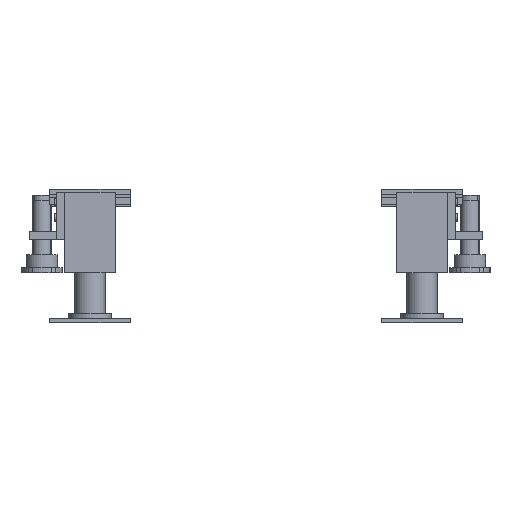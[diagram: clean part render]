
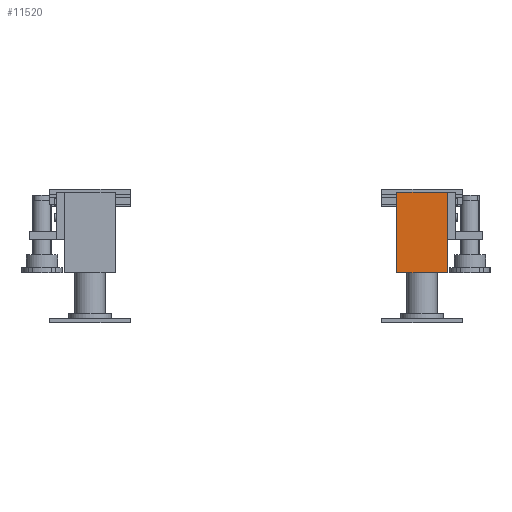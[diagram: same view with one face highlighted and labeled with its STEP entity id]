
A CAD part, left-side view. The second image highlights one B-rep face of the part: STEP entity #11520.
In plain terms, the highlighted planar face has unit normal (-1, 0, 0).
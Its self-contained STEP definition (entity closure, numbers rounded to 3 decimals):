
#11520 = ADVANCED_FACE('',(#11521),#11535,.F.);
#11521 = FACE_BOUND('',#11522,.F.);
#11522 = EDGE_LOOP('',(#11523,#11558,#11586,#11614));
#11523 = ORIENTED_EDGE('',*,*,#11524,.F.);
#11524 = EDGE_CURVE('',#11525,#11527,#11529,.T.);
#11525 = VERTEX_POINT('',#11526);
#11526 = CARTESIAN_POINT('',(3025.,-380.,950.));
#11527 = VERTEX_POINT('',#11528);
#11528 = CARTESIAN_POINT('',(3025.,-380.,1110.));
#11529 = SURFACE_CURVE('',#11530,(#11534,#11546),.PCURVE_S1.);
#11530 = LINE('',#11531,#11532);
#11531 = CARTESIAN_POINT('',(3025.,-380.,950.));
#11532 = VECTOR('',#11533,1.);
#11533 = DIRECTION('',(0.,0.,1.));
#11534 = PCURVE('',#11535,#11540);
#11535 = PLANE('',#11536);
#11536 = AXIS2_PLACEMENT_3D('',#11537,#11538,#11539);
#11537 = CARTESIAN_POINT('',(3025.,-380.,950.));
#11538 = DIRECTION('',(1.,0.,-0.));
#11539 = DIRECTION('',(0.,0.,1.));
#11540 = DEFINITIONAL_REPRESENTATION('',(#11541),#11545);
#11541 = LINE('',#11542,#11543);
#11542 = CARTESIAN_POINT('',(0.,0.));
#11543 = VECTOR('',#11544,1.);
#11544 = DIRECTION('',(1.,0.));
#11545 = ( GEOMETRIC_REPRESENTATION_CONTEXT(2) 
PARAMETRIC_REPRESENTATION_CONTEXT() REPRESENTATION_CONTEXT('2D SPACE',''
  ) );
#11546 = PCURVE('',#11547,#11552);
#11547 = PLANE('',#11548);
#11548 = AXIS2_PLACEMENT_3D('',#11549,#11550,#11551);
#11549 = CARTESIAN_POINT('',(3025.,-380.,950.));
#11550 = DIRECTION('',(-0.,1.,0.));
#11551 = DIRECTION('',(0.,0.,1.));
#11552 = DEFINITIONAL_REPRESENTATION('',(#11553),#11557);
#11553 = LINE('',#11554,#11555);
#11554 = CARTESIAN_POINT('',(0.,0.));
#11555 = VECTOR('',#11556,1.);
#11556 = DIRECTION('',(1.,0.));
#11557 = ( GEOMETRIC_REPRESENTATION_CONTEXT(2) 
PARAMETRIC_REPRESENTATION_CONTEXT() REPRESENTATION_CONTEXT('2D SPACE',''
  ) );
#11558 = ORIENTED_EDGE('',*,*,#11559,.T.);
#11559 = EDGE_CURVE('',#11525,#11560,#11562,.T.);
#11560 = VERTEX_POINT('',#11561);
#11561 = CARTESIAN_POINT('',(3025.,-280.,950.));
#11562 = SURFACE_CURVE('',#11563,(#11567,#11574),.PCURVE_S1.);
#11563 = LINE('',#11564,#11565);
#11564 = CARTESIAN_POINT('',(3025.,-380.,950.));
#11565 = VECTOR('',#11566,1.);
#11566 = DIRECTION('',(-0.,1.,0.));
#11567 = PCURVE('',#11535,#11568);
#11568 = DEFINITIONAL_REPRESENTATION('',(#11569),#11573);
#11569 = LINE('',#11570,#11571);
#11570 = CARTESIAN_POINT('',(0.,0.));
#11571 = VECTOR('',#11572,1.);
#11572 = DIRECTION('',(0.,-1.));
#11573 = ( GEOMETRIC_REPRESENTATION_CONTEXT(2) 
PARAMETRIC_REPRESENTATION_CONTEXT() REPRESENTATION_CONTEXT('2D SPACE',''
  ) );
#11574 = PCURVE('',#11575,#11580);
#11575 = PLANE('',#11576);
#11576 = AXIS2_PLACEMENT_3D('',#11577,#11578,#11579);
#11577 = CARTESIAN_POINT('',(3025.,-380.,950.));
#11578 = DIRECTION('',(0.,0.,1.));
#11579 = DIRECTION('',(1.,0.,-0.));
#11580 = DEFINITIONAL_REPRESENTATION('',(#11581),#11585);
#11581 = LINE('',#11582,#11583);
#11582 = CARTESIAN_POINT('',(0.,0.));
#11583 = VECTOR('',#11584,1.);
#11584 = DIRECTION('',(0.,1.));
#11585 = ( GEOMETRIC_REPRESENTATION_CONTEXT(2) 
PARAMETRIC_REPRESENTATION_CONTEXT() REPRESENTATION_CONTEXT('2D SPACE',''
  ) );
#11586 = ORIENTED_EDGE('',*,*,#11587,.T.);
#11587 = EDGE_CURVE('',#11560,#11588,#11590,.T.);
#11588 = VERTEX_POINT('',#11589);
#11589 = CARTESIAN_POINT('',(3025.,-280.,1110.));
#11590 = SURFACE_CURVE('',#11591,(#11595,#11602),.PCURVE_S1.);
#11591 = LINE('',#11592,#11593);
#11592 = CARTESIAN_POINT('',(3025.,-280.,950.));
#11593 = VECTOR('',#11594,1.);
#11594 = DIRECTION('',(0.,0.,1.));
#11595 = PCURVE('',#11535,#11596);
#11596 = DEFINITIONAL_REPRESENTATION('',(#11597),#11601);
#11597 = LINE('',#11598,#11599);
#11598 = CARTESIAN_POINT('',(0.,-100.));
#11599 = VECTOR('',#11600,1.);
#11600 = DIRECTION('',(1.,0.));
#11601 = ( GEOMETRIC_REPRESENTATION_CONTEXT(2) 
PARAMETRIC_REPRESENTATION_CONTEXT() REPRESENTATION_CONTEXT('2D SPACE',''
  ) );
#11602 = PCURVE('',#11603,#11608);
#11603 = PLANE('',#11604);
#11604 = AXIS2_PLACEMENT_3D('',#11605,#11606,#11607);
#11605 = CARTESIAN_POINT('',(3025.,-280.,950.));
#11606 = DIRECTION('',(-0.,1.,0.));
#11607 = DIRECTION('',(0.,0.,1.));
#11608 = DEFINITIONAL_REPRESENTATION('',(#11609),#11613);
#11609 = LINE('',#11610,#11611);
#11610 = CARTESIAN_POINT('',(0.,0.));
#11611 = VECTOR('',#11612,1.);
#11612 = DIRECTION('',(1.,0.));
#11613 = ( GEOMETRIC_REPRESENTATION_CONTEXT(2) 
PARAMETRIC_REPRESENTATION_CONTEXT() REPRESENTATION_CONTEXT('2D SPACE',''
  ) );
#11614 = ORIENTED_EDGE('',*,*,#11615,.F.);
#11615 = EDGE_CURVE('',#11527,#11588,#11616,.T.);
#11616 = SURFACE_CURVE('',#11617,(#11621,#11628),.PCURVE_S1.);
#11617 = LINE('',#11618,#11619);
#11618 = CARTESIAN_POINT('',(3025.,-380.,1110.));
#11619 = VECTOR('',#11620,1.);
#11620 = DIRECTION('',(-0.,1.,0.));
#11621 = PCURVE('',#11535,#11622);
#11622 = DEFINITIONAL_REPRESENTATION('',(#11623),#11627);
#11623 = LINE('',#11624,#11625);
#11624 = CARTESIAN_POINT('',(160.,0.));
#11625 = VECTOR('',#11626,1.);
#11626 = DIRECTION('',(0.,-1.));
#11627 = ( GEOMETRIC_REPRESENTATION_CONTEXT(2) 
PARAMETRIC_REPRESENTATION_CONTEXT() REPRESENTATION_CONTEXT('2D SPACE',''
  ) );
#11628 = PCURVE('',#11629,#11634);
#11629 = PLANE('',#11630);
#11630 = AXIS2_PLACEMENT_3D('',#11631,#11632,#11633);
#11631 = CARTESIAN_POINT('',(3025.,-380.,1110.));
#11632 = DIRECTION('',(0.,0.,1.));
#11633 = DIRECTION('',(1.,0.,-0.));
#11634 = DEFINITIONAL_REPRESENTATION('',(#11635),#11639);
#11635 = LINE('',#11636,#11637);
#11636 = CARTESIAN_POINT('',(0.,0.));
#11637 = VECTOR('',#11638,1.);
#11638 = DIRECTION('',(0.,1.));
#11639 = ( GEOMETRIC_REPRESENTATION_CONTEXT(2) 
PARAMETRIC_REPRESENTATION_CONTEXT() REPRESENTATION_CONTEXT('2D SPACE',''
  ) );
